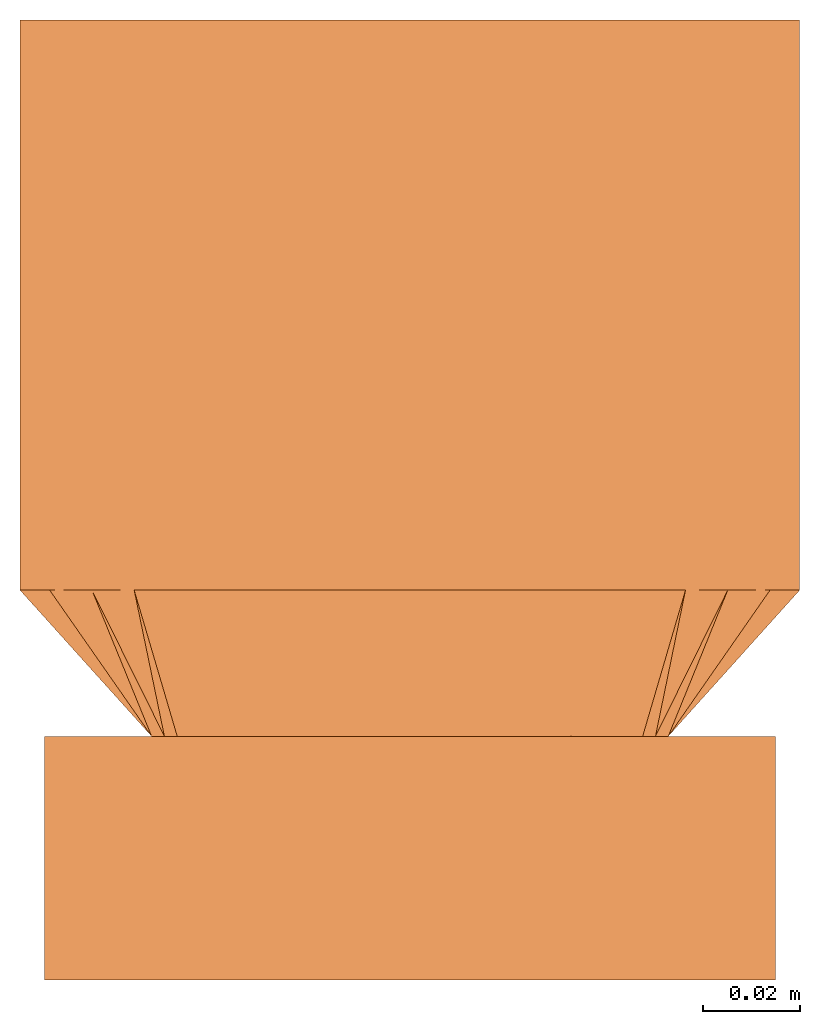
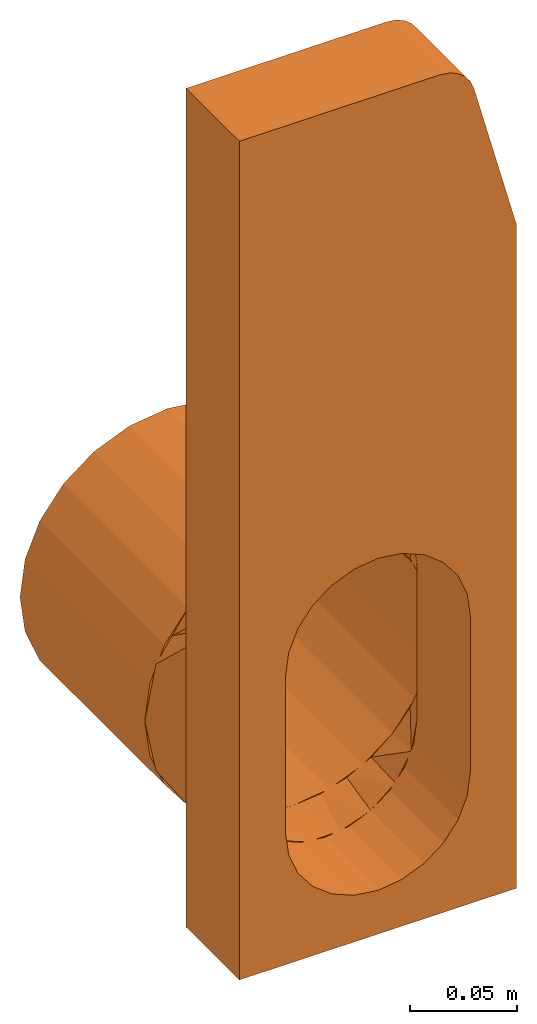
# One storey: 1 proxy.
"""IFC2X3 building model written with IfcOpenShell, lengths in millimetres."""

from ifc_helpers import new_model, entity, si_unit, converted_unit, direction, frame, origin, place, context, subcontext, project, spatial, faceted_brep, source, transform, mapped, material, material_list, element, save


model = new_model("IFC2X3")

# Units and contexts
model_context = context("Model", 3, precision=1e-06, world=origin(), true_north=direction((2.0, 6.12303176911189e-17, 1.0)))
context_of_model = context(None, 3, precision=1e-06, world=origin(), true_north=direction((2.0, 6.12303176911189e-17, 1.0)))
body_context = subcontext(model_context, "Body", "Model", "MODEL_VIEW")
ifc_project = project(units=[si_unit("LENGTHUNIT", "METRE", prefix="MILLI"), si_unit("AREAUNIT", "SQUARE_METRE", prefix="MILLI"), si_unit("VOLUMEUNIT", "CUBIC_METRE", prefix="MILLI"), converted_unit("PLANEANGLEUNIT", "DEGREE", entity("IfcRatioMeasure", 0.0174532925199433), si_unit("PLANEANGLEUNIT", "RADIAN"), dimensions=[0, 0, 0, 0, 0, 0, 0]), si_unit("TIMEUNIT", "SECOND")], contexts=[model_context, context_of_model])

# Site, building, storey
site_placement = place(None, origin())
site = spatial("IfcSite", under=ifc_project, at=site_placement, Name="Default", CompositionType="ELEMENT")
building_placement = place(site_placement, origin())
building = spatial("IfcBuilding", under=site, at=building_placement, CompositionType="ELEMENT")
storey_placement = place(building_placement, frame((0.0, 0.0, -300.0)))
storey = spatial("IfcBuildingStorey", under=building, at=storey_placement, Name="T.O. Fnd. Wall", CompositionType="ELEMENT", Elevation=-300.0)

# Proxy
ifc_material_1 = material(Name="Acetal Resin, Black")
ifc_material_2 = material(Name="ACO Polymer Concrete.")
ifc_material_list = material_list([ifc_material_1, ifc_material_2])
shared_shape = source(origin(), body_context, "Body", "Brep", [
    faceted_brep([(50.0321815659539, 50.0, -280.021643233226), (63.6453205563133, 80.0, -296.014213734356), (47.0196359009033, 50.0, -297.114891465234), (42.5419883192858, 80.0, -317.123265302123), (38.341309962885, 50.0, -312.152791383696), (14.9666109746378, 80.0, -328.549723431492), (8.7219698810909, 50.0, -329.260729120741), (25.0477492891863, 50.0, -323.31392166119), (0.0420870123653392, 80.0, -330.021642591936), (29.3170621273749, 80.0, -324.194451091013), (64.1151206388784, 65.9429498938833, -265.938704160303), (75.0641868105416, 80.0, -268.436340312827), (70.7128347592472, 80.0, -282.787583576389), (57.0736511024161, 57.971474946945, -272.980173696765), (-75.9275944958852, 80.0, -259.005838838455), (-76.4678184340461, 80.0, -253.52164323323), (-73.3635531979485, 76.4857374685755, -256.625908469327), (-70.259287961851, 72.9714749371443, -259.730173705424), (54.1332059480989, 80.0, -307.607955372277), (-64.0507574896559, 65.9429498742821, -265.938704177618), (-74.9974728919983, 80.0, -268.448161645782), (-14.8829729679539, 80.0, -328.553557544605), (-8.64747719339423, 50.0, -329.262515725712), (-24.9645989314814, 50.0, -323.324772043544), (70.3236511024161, 72.971474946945, -259.730173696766), (75.9923882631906, 80.0, -259.005895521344), (-42.4623383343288, 80.0, -317.133480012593), (-46.9512047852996, 50.0, -297.126069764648), (-38.2639633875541, 50.0, -312.168264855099), (-29.2349814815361, 80.0, -324.201790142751), (-70.643072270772, 80.0, -282.800620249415), (-57.0092879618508, 57.9714749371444, -272.980173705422), (-49.9678184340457, 50.0, -280.021643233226), (-63.572150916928, 80.0, -296.027394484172), (-54.0566263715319, 80.0, -307.620172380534), (73.4279163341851, 76.4857374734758, -256.625908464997), (76.5321815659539, 80.0, -253.521643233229), (-49.9678184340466, 50.0, -190.02526552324), (-63.5721509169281, 80.0, -211.015891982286), (-46.9562377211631, 50.0, -172.934670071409), (-42.462338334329, 80.0, -189.909806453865), (-38.2887836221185, 50.0, -157.908235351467), (-14.8829729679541, 80.0, -178.489728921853), (-8.66137324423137, 50.0, -140.786844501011), (-24.9999175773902, 50.0, -146.742543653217), (0.0420870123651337, 80.0, -177.021643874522), (-29.2349814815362, 80.0, -182.841496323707), (-64.0507575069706, 65.9429498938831, -223.76925113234), (-74.9974728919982, 80.0, -238.595124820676), (-70.643072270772, 80.0, -224.242666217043), (-57.0092879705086, 57.9714749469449, -206.89725832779), (75.9923882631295, 80.0, -248.037390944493), (73.4279163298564, 76.4857374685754, -246.083545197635), (70.3236510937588, 72.9714749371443, -238.645447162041), (-54.0566263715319, 80.0, -199.423114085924), (64.1151206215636, 65.9429498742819, -223.769251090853), (75.0641868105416, 80.0, -238.606946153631), (14.9666109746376, 80.0, -178.493563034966), (8.71986417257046, 50.0, -140.785808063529), (25.0469352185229, 50.0, -146.732516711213), (-70.2592879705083, 72.9714749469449, -238.645447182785), (-75.9275944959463, 80.0, -248.037447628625), (42.5419883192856, 80.0, -189.920021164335), (47.0229120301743, 50.0, -172.941025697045), (38.3566098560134, 50.0, -157.912367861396), (29.3170621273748, 80.0, -182.848835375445), (50.0321815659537, 50.0, -190.02526552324), (63.6453205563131, 80.0, -211.029072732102), (57.0736510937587, 57.9714749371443, -206.897258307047), (54.1332059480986, 80.0, -199.435331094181), (-73.3635532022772, 76.4857374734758, -246.083545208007), (70.712834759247, 80.0, -224.255702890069), (30.6146745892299, 80.0, -179.710807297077), (43.5916085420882, 80.0, -188.381717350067), (0.0, 80.0, -173.621169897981), (15.3073372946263, 80.0, -176.665988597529), (56.5685424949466, 80.0, -197.052627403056), (80.0, 80.0, -253.621169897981), (73.9103626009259, 80.0, -223.006495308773), (77.7502172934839, 80.0, -242.310748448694), (65.2394525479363, 80.0, -210.029561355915), (-30.6146745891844, 80.0, -179.710807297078), (-15.3073372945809, 80.0, -176.665988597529), (-56.568542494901, 80.0, -197.052627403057), (-43.5916085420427, 80.0, -188.381717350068), (-73.91036260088, 80.0, -223.006495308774), (-65.2394525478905, 80.0, -210.029561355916), (-80.0, 80.0, -253.621169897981), (-77.7502172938, 80.0, -242.310748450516), (77.7502172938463, 80.0, -264.931591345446), (73.9103626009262, 80.0, -284.235844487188), (65.2394525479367, 80.0, -297.212778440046), (56.5685424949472, 80.0, -310.189712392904), (43.5916085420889, 80.0, -318.860622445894), (30.6146745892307, 80.0, -327.531532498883), (15.3073372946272, 80.0, -330.576351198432), (0.0, 80.0, -333.621169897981), (-56.5685424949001, 80.0, -310.189712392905), (-65.2394525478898, 80.0, -297.212778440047), (-73.9103626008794, 80.0, -284.235844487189), (-77.7502172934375, 80.0, -264.931591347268), (-30.6146745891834, 80.0, -327.531532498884), (-15.3073372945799, 80.0, -330.576351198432), (-43.5916085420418, 80.0, -318.860622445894), (-33.0245558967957, 50.0, -148.528628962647), (-40.3777511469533, 50.0, -157.749244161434), (-11.7732058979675, 50.0, -138.294518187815), (-22.3988808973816, 50.0, -143.411573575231), (11.814013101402, 50.0, -138.294518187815), (0.020403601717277, 50.0, -138.294518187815), (-52.9795963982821, 50.0, -189.965697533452), (-50.3552713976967, 50.0, -178.467778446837), (-52.9795963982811, 50.0, -279.965697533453), (-47.7309463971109, 50.0, -166.969859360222), (22.4396881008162, 50.0, -143.41157357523), (33.0653631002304, 50.0, -148.528628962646), (47.771753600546, 50.0, -166.969859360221), (40.4185583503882, 50.0, -157.749244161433), (53.0204036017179, 50.0, -189.965697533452), (50.396078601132, 50.0, -178.467778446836), (53.020403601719, 50.0, -279.965697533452), (-50.355271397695, 50.0, -291.463616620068), (-47.7309463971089, 50.0, -302.961535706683), (-40.3777511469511, 50.0, -312.182150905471), (-33.0245558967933, 50.0, -321.402766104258), (-22.3988808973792, 50.0, -326.519821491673), (-11.7732058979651, 50.0, -331.636876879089), (0.0204036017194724, 50.0, -331.636876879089), (11.8140131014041, 50.0, -331.636876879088), (47.7717536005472, 50.0, -302.961535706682), (50.396078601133, 50.0, -291.463616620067), (22.4396881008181, 50.0, -326.519821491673), (33.0653631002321, 50.0, -321.402766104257), (40.4185583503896, 50.0, -312.182150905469), (67.0466573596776, 65.5965125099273, -266.269605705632), (73.5233286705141, 72.7982562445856, -238.34015654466), (67.046657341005, 65.5965124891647, -223.059143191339), (73.5233286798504, 72.7982562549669, -259.945387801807), (-73.513532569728, 72.7982562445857, -259.945387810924), (-67.0270651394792, 65.5965124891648, -266.269605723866), (-67.0270651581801, 65.5965125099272, -223.059143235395), (-73.5135325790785, 72.7982562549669, -238.340156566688)], [[[0, 1, 2]], [[2, 3, 4]], [[5, 6, 7]], [[8, 6, 5]], [[9, 7, 4]], [[9, 5, 7]], [[10, 11, 12]], [[0, 13, 1]], [[14, 15, 16, 17]], [[2, 18, 3]], [[18, 2, 1]], [[12, 1, 13]], [[4, 3, 9]], [[17, 19, 20, 14]], [[21, 22, 8]], [[6, 8, 22]], [[23, 22, 21]], [[11, 10, 24, 25]], [[26, 27, 28]], [[28, 23, 29]], [[30, 19, 31]], [[29, 23, 21]], [[13, 10, 12]], [[32, 27, 33]], [[29, 26, 28]], [[26, 34, 27]], [[25, 24, 35, 36]], [[32, 33, 31]], [[34, 33, 27]], [[30, 31, 33]], [[20, 19, 30]], [[37, 38, 39]], [[39, 40, 41]], [[42, 43, 44]], [[45, 43, 42]], [[46, 44, 41]], [[46, 42, 44]], [[47, 48, 49]], [[37, 50, 38]], [[51, 36, 52, 53]], [[39, 54, 40]], [[54, 39, 38]], [[49, 38, 50]], [[41, 40, 46]], [[53, 55, 56, 51]], [[57, 58, 45]], [[43, 45, 58]], [[59, 58, 57]], [[48, 47, 60, 61]], [[62, 63, 64]], [[64, 59, 65]], [[65, 59, 57]], [[66, 67, 68]], [[66, 63, 67]], [[65, 62, 64]], [[62, 69, 63]], [[61, 60, 70, 15]], [[71, 55, 68]], [[69, 67, 63]], [[50, 47, 49]], [[71, 68, 67]], [[56, 55, 71]], [[0, 66, 68, 55]], [[32, 31, 70, 60]], [[72, 73, 62, 65]], [[74, 75, 57, 45]], [[72, 65, 57, 75]], [[76, 69, 62, 73]], [[77, 36, 51, 56]], [[78, 79, 56, 71]], [[67, 69, 76, 80]], [[78, 71, 67, 80]], [[81, 82, 42, 46]], [[83, 84, 40, 54]], [[81, 46, 40, 84]], [[74, 45, 42, 82]], [[38, 49, 85, 86]], [[87, 88, 48, 61]], [[85, 49, 48, 88]], [[83, 54, 38, 86]], [[77, 89, 11, 25]], [[90, 12, 11, 89]], [[1, 12, 90, 91]], [[92, 18, 1, 91]], [[92, 93, 3, 18]], [[94, 9, 3, 93]], [[5, 9, 94, 95]], [[96, 8, 5, 95]], [[97, 98, 33, 34]], [[99, 30, 33, 98]], [[99, 100, 20, 30]], [[87, 15, 14, 20]], [[101, 29, 21, 102]], [[96, 102, 21, 8]], [[101, 103, 26, 29]], [[97, 34, 26, 103]], [[41, 44, 104, 105]], [[106, 107, 44, 43]], [[108, 109, 43, 58]], [[110, 37, 39, 111]], [[37, 110, 112, 32]], [[39, 41, 113, 111]], [[108, 58, 59, 114]], [[115, 114, 59, 64]], [[64, 63, 116, 117]], [[118, 119, 63, 66]], [[120, 118, 66, 0]], [[27, 32, 112, 121]], [[28, 27, 122, 123]], [[23, 28, 124, 125]], [[126, 22, 23, 125]], [[22, 126, 127, 128]], [[129, 130, 2, 4]], [[120, 0, 2, 130]], [[7, 6, 128, 131]], [[128, 6, 22]], [[4, 7, 132, 133]], [[120, 134, 135, 136]], [[91, 130, 92]], [[125, 124, 101]], [[93, 129, 133, 132]], [[89, 77, 137, 134]], [[96, 95, 128]], [[131, 128, 95]], [[96, 128, 127, 126]], [[134, 120, 90, 89]], [[138, 87, 100, 139]], [[130, 91, 120]], [[130, 129, 92]], [[94, 131, 95]], [[96, 126, 102]], [[102, 125, 101]], [[123, 122, 103, 124]], [[94, 132, 131]], [[120, 91, 90]], [[112, 98, 121]], [[99, 112, 139, 100]], [[125, 102, 126]], [[122, 121, 97]], [[129, 93, 92]], [[124, 103, 101]], [[97, 121, 98]], [[112, 99, 98]], [[93, 132, 94]], [[103, 122, 97]], [[112, 110, 140, 141]], [[86, 111, 83]], [[114, 115, 72]], [[84, 113, 105, 104]], [[88, 87, 141, 140]], [[74, 82, 106]], [[107, 106, 82]], [[74, 106, 109, 108]], [[140, 110, 85, 88]], [[135, 77, 79, 136]], [[111, 86, 110]], [[111, 113, 83]], [[81, 107, 82]], [[74, 108, 75]], [[75, 114, 72]], [[117, 116, 73, 115]], [[81, 104, 107]], [[110, 86, 85]], [[118, 80, 119]], [[78, 118, 136, 79]], [[114, 75, 108]], [[116, 119, 76]], [[113, 84, 83]], [[115, 73, 72]], [[76, 119, 80]], [[118, 78, 80]], [[84, 104, 81]], [[73, 116, 76]], [[0, 55, 53, 52]], [[52, 36, 35, 24]], [[52, 24, 10, 13]], [[52, 13, 0]], [[32, 60, 47, 50]], [[32, 50, 37]], [[70, 31, 19, 17]], [[70, 17, 16, 15]], [[56, 79, 77]], [[87, 61, 15]], [[20, 100, 87]], [[77, 25, 36]], [[44, 107, 104]], [[43, 109, 106]], [[41, 105, 113]], [[63, 119, 116]], [[64, 117, 115]], [[27, 121, 122]], [[28, 123, 124]], [[7, 131, 132]], [[4, 133, 129]], [[120, 136, 118]], [[135, 134, 137, 77]], [[141, 87, 138, 139]], [[141, 139, 112]]]),
    faceted_brep([(43.1258679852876, 50.0, 122.454482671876), (47.060896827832, 50.0, 119.435028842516), (33.6258679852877, 50.0, 125.0), (38.5434298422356, 50.0, 124.352590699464), (50.0803506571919, 50.0, 115.499999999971), (51.9784586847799, 50.0, 110.917561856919), (75.0, 50.0, 25.0), (-75.0, 50.0, 125.0), (35.3757426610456, 50.0, -154.610358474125), (43.3216737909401, 50.0, -164.965697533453), (48.3166949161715, 50.0, -177.024745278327), (25.0204036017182, 50.0, -146.664427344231), (-12.9205486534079, 50.0, -141.669406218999), (0.0204036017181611, 50.0, -139.965697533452), (-24.979596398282, 50.0, -146.66442734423), (-35.3349354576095, 50.0, -154.610358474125), (12.9613558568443, 50.0, -141.669406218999), (-43.2808665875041, 50.0, -164.965697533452), (-48.2758877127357, 50.0, -177.024745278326), (-49.9795963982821, 50.0, -189.965697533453), (50.020403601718, 50.0, -189.965697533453), (75.0, 50.0, -355.0), (48.3166949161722, 50.0, -292.906649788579), (50.0204036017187, 50.0, -279.965697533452), (43.3216737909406, 50.0, -304.965697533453), (35.3757426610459, 50.0, -315.32103659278), (25.0204036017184, 50.0, -323.266967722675), (12.9613558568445, 50.0, -328.261988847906), (0.0204036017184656, 50.0, -329.965697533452), (-75.0, 50.0, -355.0), (-49.979596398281, 50.0, -279.965697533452), (-48.2758877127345, 50.0, -292.906649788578), (-43.2808665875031, 50.0, -304.965697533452), (-12.9205486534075, 50.0, -328.261988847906), (-35.3349354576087, 50.0, -315.32103659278), (-24.9795963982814, 50.0, -323.266967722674), (75.0, 0.0, -355.0), (35.3757426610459, 0.0, -315.32103659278), (25.0204036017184, 0.0, -323.266967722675), (43.3216737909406, 0.0, -304.965697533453), (12.9613558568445, 0.0, -328.261988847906), (0.0204036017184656, 0.0, -329.965697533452), (75.0, 0.0, 25.0), (48.3166949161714, 0.0, -177.024745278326), (50.0204036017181, 0.0, -189.965697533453), (48.3166949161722, 0.0, -292.906649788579), (50.0204036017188, 0.0, -279.965697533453), (-12.9205486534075, 0.0, -328.261988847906), (-75.0, 0.0, -355.0), (-24.9795963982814, 0.0, -323.266967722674), (-35.3349354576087, 0.0, -315.32103659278), (-48.2758877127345, 0.0, -292.906649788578), (-49.979596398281, 0.0, -279.965697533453), (-43.2808665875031, 0.0, -304.965697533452), (-49.9795963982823, 0.0, -189.965697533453), (-75.0, 0.0, 125.0), (25.0204036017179, 0.0, -146.66442734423), (35.3757426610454, 0.0, -154.610358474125), (43.3216737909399, 0.0, -164.965697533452), (51.9784586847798, 0.0, 110.917561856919), (33.6258679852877, 0.0, 125.0), (50.0803506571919, 0.0, 115.499999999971), (47.060896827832, 0.0, 119.435028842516), (43.1258679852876, 0.0, 122.454482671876), (38.5434298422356, 0.0, 124.352590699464), (-48.2758877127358, 0.0, -177.024745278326), (-43.2808665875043, 0.0, -164.965697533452), (-35.3349354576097, 0.0, -154.610358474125), (12.9613558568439, 0.0, -141.669406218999), (0.0204036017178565, 0.0, -139.965697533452), (-24.9795963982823, 0.0, -146.66442734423), (-12.9205486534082, 0.0, -141.669406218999)], [[[0, 1, 2, 3]], [[2, 1, 4, 5]], [[6, 7, 2, 5]], [[8, 6, 9]], [[6, 10, 9]], [[11, 6, 8]], [[12, 7, 6, 13]], [[12, 14, 7]], [[7, 14, 15]], [[13, 6, 16]], [[17, 18, 7]], [[15, 17, 7]], [[6, 11, 16]], [[7, 18, 19]], [[20, 10, 6, 21]], [[22, 23, 21]], [[20, 21, 23]], [[24, 21, 25]], [[21, 24, 22]], [[26, 25, 21]], [[27, 26, 21]], [[28, 27, 21, 29]], [[19, 30, 29, 7]], [[31, 32, 29]], [[30, 31, 29]], [[33, 28, 29]], [[34, 35, 29]], [[29, 35, 33]], [[34, 29, 32]], [[36, 37, 38]], [[37, 36, 39]], [[38, 40, 36]], [[36, 40, 41]], [[42, 43, 44]], [[45, 39, 36]], [[46, 45, 36]], [[44, 46, 36, 42]], [[41, 47, 48, 36]], [[48, 49, 50]], [[49, 48, 47]], [[51, 52, 48]], [[53, 51, 48]], [[48, 52, 54, 55]], [[50, 53, 48]], [[56, 57, 42]], [[57, 58, 42]], [[42, 59, 60, 55]], [[42, 58, 43]], [[61, 62, 60, 59]], [[63, 64, 60, 62]], [[65, 66, 55]], [[67, 55, 66]], [[68, 42, 69]], [[70, 71, 55]], [[71, 69, 42, 55]], [[70, 55, 67]], [[56, 42, 68]], [[65, 55, 54]], [[48, 55, 7, 29]], [[36, 48, 29, 21]], [[6, 42, 36, 21]], [[52, 30, 19, 54]], [[18, 65, 54, 19]], [[17, 66, 65, 18]], [[15, 67, 66, 17]], [[14, 70, 67, 15]], [[71, 12, 13, 69]], [[70, 14, 12, 71]], [[56, 68, 16, 11]], [[57, 56, 11, 8]], [[43, 58, 9, 10]], [[58, 57, 8, 9]], [[44, 43, 10, 20]], [[13, 16, 68, 69]], [[20, 23, 46, 44]], [[22, 45, 46, 23]], [[24, 39, 45, 22]], [[41, 40, 27, 28]], [[25, 37, 39, 24]], [[25, 26, 38, 37]], [[40, 38, 26, 27]], [[49, 47, 33, 35]], [[50, 49, 35, 34]], [[51, 53, 32, 31]], [[53, 50, 34, 32]], [[52, 51, 31, 30]], [[28, 33, 47, 41]], [[5, 59, 42, 6]], [[61, 4, 1, 62]], [[59, 5, 4, 61]], [[62, 1, 0, 63]], [[63, 0, 3, 64]], [[64, 3, 2, 60]], [[55, 60, 2, 7]]]),
    faceted_brep([(-54.0936687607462, 80.0, -199.427501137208), (-38.2499999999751, 80.0, -187.27022650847), (-40.0, 80.0, -184.339137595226), (-56.5685424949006, 80.0, -197.052627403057), (-20.7055236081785, 80.0, -176.347103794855), (-19.7996569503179, 80.0, -179.627844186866), (0.0, 80.0, -173.621169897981), (0.0, 80.0, -177.021169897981), (-76.4999999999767, 80.0, -253.521169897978), (-73.8933257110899, 80.0, -233.721512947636), (-77.2740661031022, 80.0, -232.915646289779), (-80.0, 80.0, -253.621169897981), (-69.2820323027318, 80.0, -213.621169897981), (-66.2509433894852, 80.0, -215.271169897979), (19.7996569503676, 80.0, -179.627844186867), (20.7055236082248, 80.0, -176.347103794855), (38.2500000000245, 80.0, -187.270226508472), (40.0, 80.0, -184.339137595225), (54.093668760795, 80.0, -199.427501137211), (56.568542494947, 80.0, -197.052627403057), (66.2509433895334, 80.0, -215.271169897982), (69.2820323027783, 80.0, -213.62116989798), (73.8933257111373, 80.0, -233.721512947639), (77.2740661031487, 80.0, -232.915646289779), (76.5000000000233, 80.0, -253.521169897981), (80.0, 80.0, -253.62116989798), (-77.2740661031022, 80.0, -274.326693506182), (-73.8933257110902, 80.0, -273.320826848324), (-66.2509433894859, 80.0, -291.771169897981), (-69.2820323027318, 80.0, -293.621169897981), (-54.0936687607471, 80.0, -307.614838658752), (-56.5685424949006, 80.0, -310.189712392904), (-40.0, 80.0, -322.903202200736), (-38.2499999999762, 80.0, -319.772113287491), (-19.799656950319, 80.0, -327.414495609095), (-20.7055236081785, 80.0, -330.895236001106), (0.0, 80.0, -330.021169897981), (0.0, 80.0, -333.621169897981), (69.2820323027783, 80.0, -293.621169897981), (66.2509433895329, 80.0, -291.771169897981), (54.0936687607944, 80.0, -307.614838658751), (56.5685424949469, 80.0, -310.189712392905), (77.2740661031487, 80.0, -274.326693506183), (73.893325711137, 80.0, -273.320826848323), (20.7055236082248, 80.0, -330.895236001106), (19.7996569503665, 80.0, -327.414495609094), (40.0, 80.0, -322.903202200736), (38.2500000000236, 80.0, -319.77211328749), (-38.2499999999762, 197.0, -319.772113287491), (-40.0, 197.0, -322.903202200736), (-56.5685424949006, 197.0, -310.189712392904), (-54.0936687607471, 197.0, -307.614838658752), (-19.799656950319, 197.0, -327.414495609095), (-20.7055236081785, 197.0, -330.895236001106), (0.0, 197.0, -330.021169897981), (0.0, 197.0, -333.621169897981), (-73.8933257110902, 197.0, -273.320826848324), (-77.2740661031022, 197.0, -274.326693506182), (-80.0, 197.0, -253.621169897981), (-76.4999999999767, 197.0, -253.521169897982), (-66.2509433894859, 197.0, -291.771169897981), (-69.2820323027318, 197.0, -293.621169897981), (20.7055236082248, 197.0, -330.895236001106), (19.7996569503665, 197.0, -327.414495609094), (40.0, 197.0, -322.903202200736), (38.2500000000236, 197.0, -319.77211328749), (56.5685424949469, 197.0, -310.189712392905), (54.0936687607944, 197.0, -307.614838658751), (66.2509433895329, 197.0, -291.771169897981), (69.2820323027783, 197.0, -293.621169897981), (77.2740661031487, 197.0, -274.326693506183), (73.893325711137, 197.0, -273.320826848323), (80.0, 197.0, -253.621169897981), (76.5000000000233, 197.0, -253.521169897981), (-77.2740661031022, 197.0, -232.915646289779), (-73.8933257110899, 197.0, -233.721512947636), (-69.2820323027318, 197.0, -213.621169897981), (-66.2509433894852, 197.0, -215.271169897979), (-56.5685424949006, 197.0, -197.052627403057), (-54.0936687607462, 197.0, -199.427501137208), (-40.0, 197.0, -184.339137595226), (-38.2499999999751, 197.0, -187.27022650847), (-20.7055236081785, 197.0, -176.347103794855), (-19.7996569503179, 197.0, -179.627844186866), (0.0, 197.0, -173.621169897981), (0.0, 197.0, -177.021169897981), (56.568542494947, 197.0, -197.052627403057), (69.2820323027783, 197.0, -213.62116989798), (66.2509433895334, 197.0, -215.271169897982), (54.093668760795, 197.0, -199.427501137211), (73.8933257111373, 197.0, -233.721512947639), (77.2740661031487, 197.0, -232.915646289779), (20.7055236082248, 197.0, -176.347103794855), (19.7996569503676, 197.0, -179.627844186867), (38.2500000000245, 197.0, -187.270226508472), (40.0, 197.0, -184.339137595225)], [[[0, 1, 2, 3]], [[4, 2, 1, 5]], [[6, 4, 5, 7]], [[8, 9, 10, 11]], [[12, 10, 9, 13]], [[13, 0, 3, 12]], [[14, 15, 6, 7]], [[15, 14, 16, 17]], [[18, 19, 17, 16]], [[20, 21, 19, 18]], [[21, 20, 22, 23]], [[23, 22, 24, 25]], [[11, 26, 27, 8]], [[28, 27, 26, 29]], [[30, 28, 29, 31]], [[31, 32, 33, 30]], [[34, 33, 32, 35]], [[36, 34, 35, 37]], [[38, 39, 40, 41]], [[39, 38, 42, 43]], [[43, 42, 25, 24]], [[44, 45, 36, 37]], [[45, 44, 46, 47]], [[47, 46, 41, 40]], [[48, 49, 50, 51]], [[49, 48, 52, 53]], [[53, 52, 54, 55]], [[56, 57, 58, 59]], [[57, 56, 60, 61]], [[61, 60, 51, 50]], [[62, 55, 54, 63]], [[64, 62, 63, 65]], [[66, 64, 65, 67]], [[67, 68, 69, 66]], [[70, 69, 68, 71]], [[72, 70, 71, 73]], [[74, 75, 59, 58]], [[75, 74, 76, 77]], [[78, 79, 77, 76]], [[80, 81, 79, 78]], [[81, 80, 82, 83]], [[84, 85, 83, 82]], [[86, 87, 88, 89]], [[90, 88, 87, 91]], [[73, 90, 91, 72]], [[84, 92, 93, 85]], [[94, 93, 92, 95]], [[95, 86, 89, 94]], [[11, 10, 74, 58]], [[10, 12, 76, 74]], [[80, 2, 4, 82]], [[82, 4, 6, 84]], [[3, 78, 76, 12]], [[78, 3, 2, 80]], [[92, 15, 17, 95]], [[95, 17, 19, 86]], [[87, 21, 23, 91]], [[86, 19, 21, 87]], [[91, 23, 25, 72]], [[15, 92, 84, 6]], [[70, 42, 38, 69]], [[69, 38, 41, 66]], [[64, 46, 44, 62]], [[66, 41, 46, 64]], [[62, 44, 37, 55]], [[72, 25, 42, 70]], [[53, 35, 32, 49]], [[49, 32, 31, 50]], [[61, 29, 26, 57]], [[50, 31, 29, 61]], [[57, 26, 11, 58]], [[35, 53, 55, 37]], [[22, 90, 73, 24]], [[20, 88, 90, 22]], [[16, 94, 89, 18]], [[18, 89, 88, 20]], [[14, 93, 94, 16]], [[93, 14, 7, 85]], [[1, 81, 83, 5]], [[0, 79, 81, 1]], [[9, 75, 77, 13]], [[13, 77, 79, 0]], [[8, 59, 75, 9]], [[5, 83, 85, 7]], [[56, 59, 8, 27]], [[60, 56, 27, 28]], [[33, 48, 51, 30]], [[34, 52, 48, 33]], [[30, 51, 60, 28]], [[52, 34, 36, 54]], [[47, 65, 63, 45]], [[40, 67, 65, 47]], [[43, 71, 68, 39]], [[39, 68, 67, 40]], [[24, 73, 71, 43]], [[45, 63, 54, 36]]]),
])
proxy_placement = place(storey_placement, frame((-5682.99544306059, -10247.1166238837, 300.0)))
element("IfcBuildingElementProxy", 1, at=proxy_placement, inside=storey, material=ifc_material_list, Name="Civil-Drainage-Channel-ACO-KerbDrain-HB480(amar):4940 - RH inlet/outlet end cap:4940 - RH inlet/outlet end cap", ObjectType="4940 - RH inlet/outlet end cap", CompositionType="ELEMENT", context=body_context, shape_type="MappedRepresentation", body=[
    mapped(shared_shape, transform((0.0, 0.0, 0.0), scale=1.0)),
])

save(model, "model.ifc")
